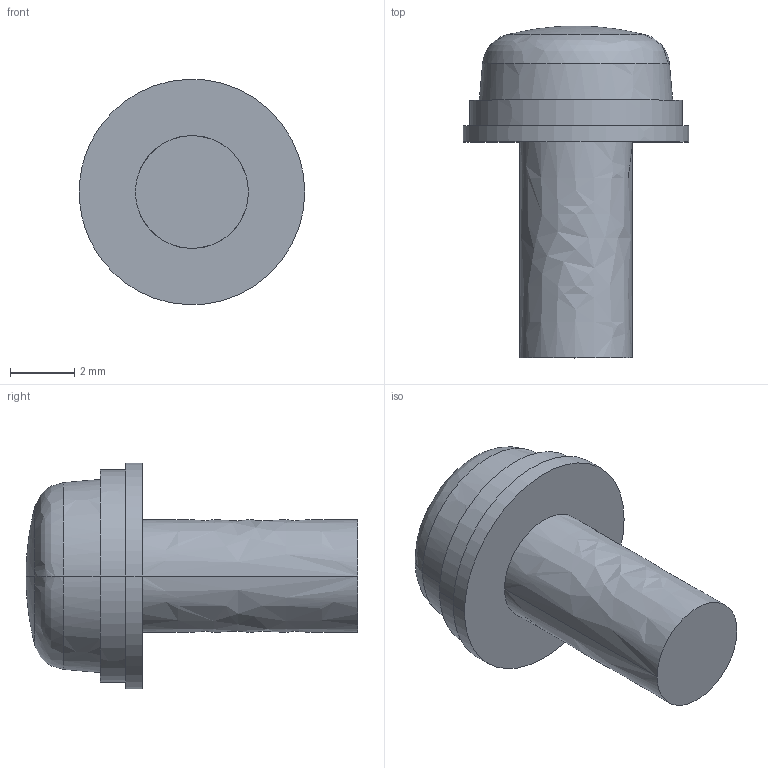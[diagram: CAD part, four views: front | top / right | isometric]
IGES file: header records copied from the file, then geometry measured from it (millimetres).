
Start section:  PTC IGES file: sw-pw-p-na-m3_5x8.igs
Global section: file name: sw-pw-p-na-m3_5x8.igs; native system: Pro/ENGINEER by Parametric Technology Corporation; preprocessor: 2010160; author: CV86875; organization: Unknown; date: 20121031.194047; units: millimetre
Bounding box: 7 x 10.3 x 6.99 mm (x, y, z)
Volume: 164.5 mm3; surface area: 206.3 mm2
Topology: 1 solids, 1 shells, 16 faces, 32 edges, 19 vertices
Faces by surface type: bspline 16
